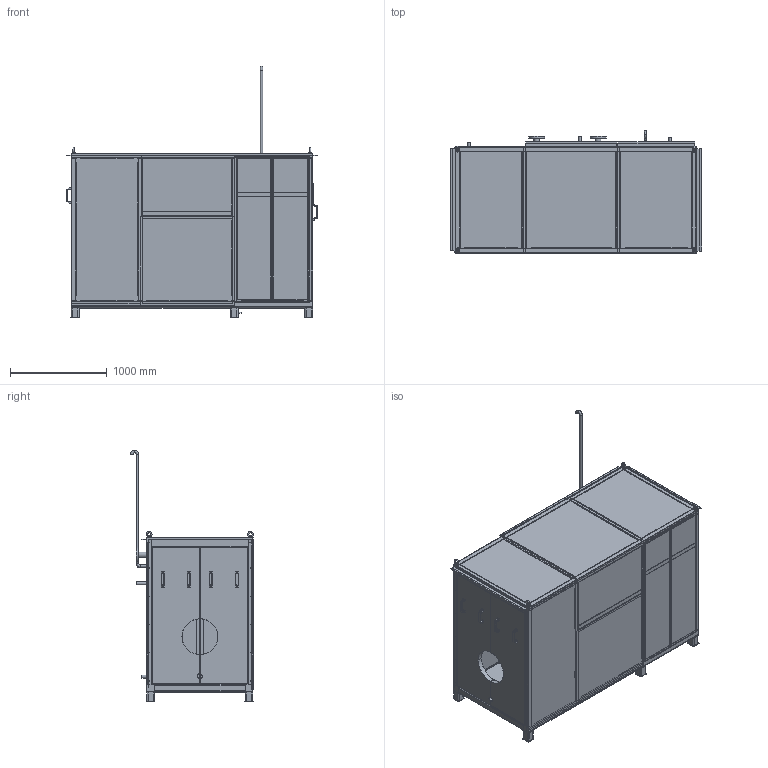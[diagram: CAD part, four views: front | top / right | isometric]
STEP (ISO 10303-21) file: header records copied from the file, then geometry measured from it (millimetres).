
FILE_DESCRIPTION(('STEP AP214'), '1');
FILE_NAME('VS150-200 - 鍕鎀霠罻', '', ('UNSPECIFIED'), ('UNSPECIFIED'), 'C3D Converter', 'C3D Toolkit', '');
FILE_SCHEMA(('AUTOMOTIVE_DESIGN { 1 0 10303 214 3 1 1}'));
Length unit declared in the file: millimetre
Products named in the file (1): VS150-200.00.000
Bounding box: 2605.5 x 1274.02 x 2608.22 mm (x, y, z)
Volume: 145918364.3 mm3; surface area: 76871317.1 mm2
Topology: 32 solids, 32 shells, 3468 faces, 8672 edges, 4897 vertices
Faces by surface type: plane 2032, cylinder 1048, torus 160, sphere 144, bspline 58, cone 26
Full cylindrical faces by diameter (mm): 4 x8, 5 x10, 6 x4, 6.2 x12, 8 x5, 13 x12, 16 x4, 18 x8, 21.1 x3, 26.7 x3, 27.1 x1, 28 x1, 30.028 x2, 32 x1, 33.5 x1, 35 x2, 40 x2, 54.2 x2, 57 x2, 60 x2, 61.5 x2, 165 x2
Entity records: 122203 total; most frequent: CARTESIAN_POINT 36420, DIRECTION 17677, ORIENTED_EDGE 16762, EDGE_CURVE 8381, AXIS2_PLACEMENT_3D 6150, LINE 5377, VECTOR 5377, VERTEX_POINT 4895
